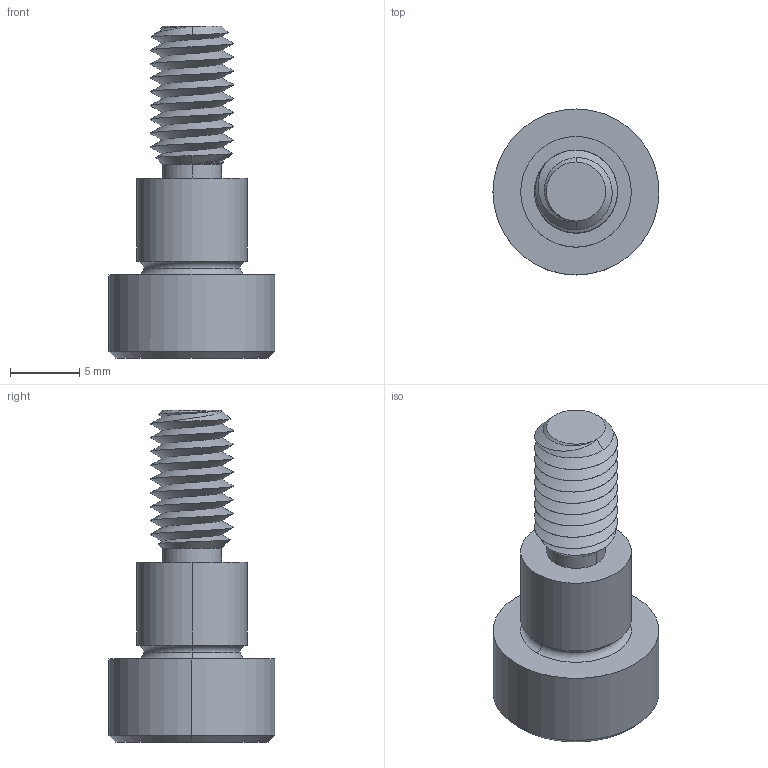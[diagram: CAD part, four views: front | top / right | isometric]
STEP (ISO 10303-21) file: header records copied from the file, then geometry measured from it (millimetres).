
FILE_DESCRIPTION (( 'STEP AP203' ), '1' );
FILE_NAME ('P0130.080-007-B2.step', '2021-11-09T21:34:29', ( '' ), ( '' ), 'SwSTEP 2.0', 'SolidWorks 2019', '' );
FILE_SCHEMA (( 'CONFIG_CONTROL_DESIGN' ));
Length unit declared in the file: millimetre
Products named in the file (1): P0130.080-007-B2
Bounding box: 12 x 12 x 24 mm (x, y, z)
Volume: 1177.3 mm3; surface area: 1008.8 mm2
Topology: 1 solids, 1 shells, 60 faces, 142 edges, 85 vertices
Faces by surface type: cylinder 24, plane 16, cone 14, torus 4, bspline 2
Entity records: 4245 total; most frequent: CARTESIAN_POINT 2899, ORIENTED_EDGE 280, DIRECTION 247, EDGE_CURVE 140, AXIS2_PLACEMENT_3D 99, VERTEX_POINT 85, EDGE_LOOP 63, FACE_OUTER_BOUND 60
